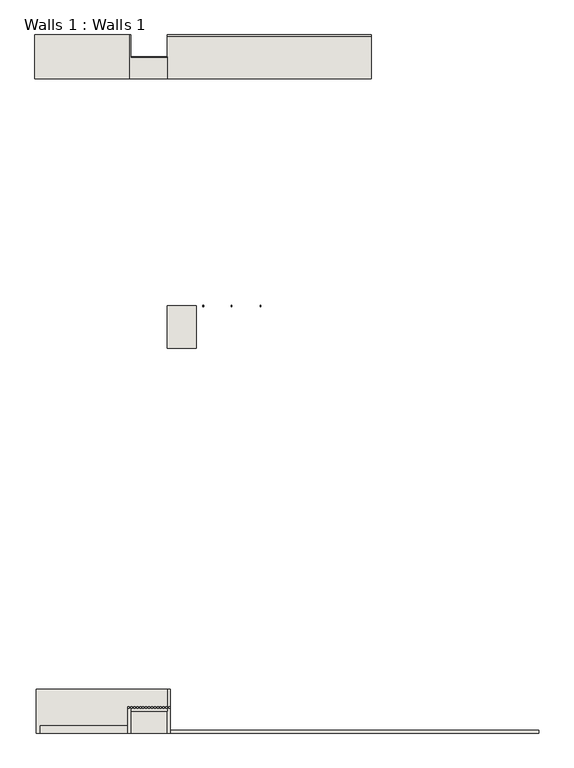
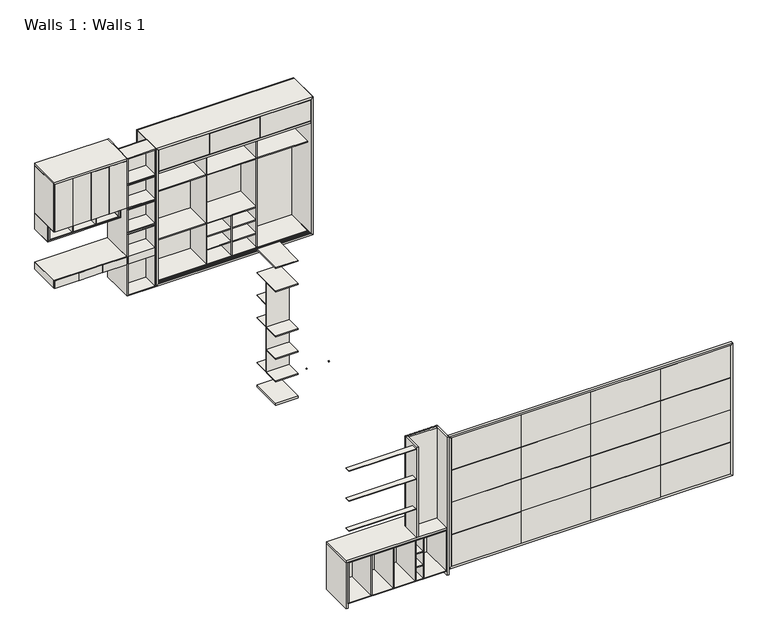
"""IFC4 building model written with IfcOpenShell, lengths in millimetres: wall geometry, Walls 1 : Walls 1."""

from ifc_helpers import new_model, si_unit, point, frame, frame_2d, origin, origin_with_axes, place, context, project, spatial, polyline, circle_curve, trimmed, segment, composite_curve, outline, extrude, faceted_brep, source, transform, mapped, element, save


def walls_1_walls_1_9100b498(model_context):
    return source(origin(), model_context, "Body", "SolidModel", [
        extrude(outline(polyline([(-4372.57126, -3535.4231126), (-4372.57126, -3435.4231126), (-3182.57126, -3435.4231126), (-3182.57126, -3535.4231126), (-4372.57126, -3535.4231126)])), frame((0.0, 0.0, 1436.6666667), z_axis=(0.0, 0.0, 1.0), x_axis=(1.0, 0.0, 0.0)), (0.0, 0.0, 1.0), 10.0),
        extrude(outline(polyline([(-4372.57126, -3535.4231126), (-4372.57126, -3435.4231126), (-3182.57126, -3435.4231126), (-3182.57126, -3535.4231126), (-4372.57126, -3535.4231126)])), frame((0.0, 0.0, 2003.3333333), z_axis=(0.0, 0.0, 1.0), x_axis=(1.0, 0.0, 0.0)), (0.0, 0.0, 1.0), 10.0),
        extrude(outline(polyline([(-4372.57126, -3535.4231126), (-4372.57126, -3435.4231126), (-3182.57126, -3435.4231126), (-3182.57126, -3535.4231126), (-4372.57126, -3535.4231126)])), frame((0.0, 0.0, 2569.2928932), z_axis=(0.0, 0.0, 1.0), x_axis=(1.0, 0.0, 0.0)), (0.0, 0.0, 1.0), 10.0),
        faceted_brep([(-2633.2783668, 5444.5768874, 2600.0), (-3147.8641532, 5444.5768874, 2600.0), (-3131.8641532, 5444.5768874, 2584.0), (-2649.2783668, 5444.5768874, 2584.0), (-3132.57126, 5444.5768874, 2583.2928932), (-3148.57126, 5444.5768874, 2599.2928932), (-3148.57126, 5444.5768874, 0.7071068), (-3132.57126, 5444.5768874, 16.7071068), (-2633.2783668, 5444.5768874, 0.0), (-2649.2783668, 5444.5768874, 16.0), (-3131.8641532, 5444.5768874, 16.0), (-3147.8641532, 5444.5768874, 0.0), (-2633.2783668, 5728.5768874, 2600.0), (-2649.2783668, 5728.5768874, 2584.0), (-3131.8641532, 5728.5768874, 2584.0), (-3132.57126, 5728.5768874, 2584.7071068), (-3132.57126, 5728.5768874, 2600.0), (-3131.8641532, 5728.5768874, 16.0), (-2649.2783668, 5728.5768874, 16.0), (-2633.2783668, 5728.5768874, 0.0), (-3132.57126, 5728.5768874, 0.0), (-3132.57126, 5728.5768874, 15.2928932), (-3147.8641532, 5728.5768874, 2600.0), (-3132.57126, 5728.5768874, 2583.2928932), (-3148.57126, 5728.5768874, 2599.2928932), (-3148.57126, 5728.5768874, 0.7071068), (-3132.57126, 5728.5768874, 16.7071068), (-3147.8641532, 5728.5768874, 0.0), (-3132.57126, 6044.5768874, 0.0), (-3132.57126, 6044.5768874, 2600.0), (-3148.57126, 5728.5768874, 2600.0), (-3148.57126, 6044.5768874, 2600.0), (-3148.57126, 6044.5768874, 0.0), (-3148.57126, 5728.5768874, 0.0)], [[[0, 1, 2, 3]], [[4, 5, 6, 7]], [[8, 9, 10, 11]], [[12, 13, 14, 15, 16]], [[17, 18, 19, 20, 21]], [[2, 1, 22, 15, 14]], [[3, 2, 14, 13]], [[0, 3, 13, 12]], [[5, 4, 23, 24]], [[7, 6, 25, 26]], [[9, 8, 19, 18]], [[10, 9, 18, 17]], [[11, 10, 17, 21, 27]], [[20, 28, 29, 16, 15, 23, 4, 7, 26, 21]], [[30, 31, 32, 33, 25, 6, 5, 24]], [[23, 15, 22, 30, 24]], [[21, 26, 25, 33, 27]], [[16, 29, 31, 30, 22, 1, 0, 12]], [[29, 28, 32, 31]], [[28, 20, 19, 8, 11, 27, 33, 32]]]),
        faceted_brep([(-2632.57126, 5444.5768874, 2599.2928932), (-2648.57126, 5444.5768874, 2583.2928932), (-2648.57126, 5444.5768874, 16.7071068), (-2632.57126, 5444.5768874, 0.7071068), (-2632.57126, 5728.5768874, 2599.2928932), (-2632.57126, 5728.5768874, 0.7071068), (-2648.57126, 5728.5768874, 16.7071068), (-2648.57126, 5728.5768874, 2583.2928932)], [[[0, 1, 2, 3]], [[4, 5, 6, 7]], [[1, 0, 4, 7]], [[2, 1, 7, 6]], [[3, 2, 6, 5]], [[0, 3, 5, 4]]]),
        extrude(outline(polyline([(-2612.57126, -3175.4231126), (-2592.57126, -3175.4231126), (-2592.57126, -3194.4231126), (-2612.57126, -3194.4231126), (-2612.57126, -3175.4231126)])), frame((0.0, 0.0, 901.0), z_axis=(0.0, 0.0, 1.0), x_axis=(1.0, 0.0, 0.0)), (0.0, 0.0, 1.0), 1699.0),
        extrude(outline(polyline([(-2652.57126, -3175.4231126), (-2632.57126, -3175.4231126), (-2632.57126, -3194.4231126), (-2652.57126, -3194.4231126), (-2652.57126, -3175.4231126)])), frame((0.0, 0.0, 901.0), z_axis=(0.0, 0.0, 1.0), x_axis=(1.0, 0.0, 0.0)), (0.0, 0.0, 1.0), 1699.0),
        extrude(outline(polyline([(-2692.57126, -3175.4231126), (-2672.57126, -3175.4231126), (-2672.57126, -3194.4231126), (-2692.57126, -3194.4231126), (-2692.57126, -3175.4231126)])), frame((0.0, 0.0, 901.0), z_axis=(0.0, 0.0, 1.0), x_axis=(1.0, 0.0, 0.0)), (0.0, 0.0, 1.0), 1699.0),
        extrude(outline(polyline([(-2732.57126, -3175.4231126), (-2712.57126, -3175.4231126), (-2712.57126, -3194.4231126), (-2732.57126, -3194.4231126), (-2732.57126, -3175.4231126)])), frame((0.0, 0.0, 901.0), z_axis=(0.0, 0.0, 1.0), x_axis=(1.0, 0.0, 0.0)), (0.0, 0.0, 1.0), 1699.0),
        extrude(outline(polyline([(-2772.57126, -3175.4231126), (-2752.57126, -3175.4231126), (-2752.57126, -3194.4231126), (-2772.57126, -3194.4231126), (-2772.57126, -3175.4231126)])), frame((0.0, 0.0, 901.0), z_axis=(0.0, 0.0, 1.0), x_axis=(1.0, 0.0, 0.0)), (0.0, 0.0, 1.0), 1699.0),
        extrude(outline(polyline([(-2812.57126, -3175.4231126), (-2792.57126, -3175.4231126), (-2792.57126, -3194.4231126), (-2812.57126, -3194.4231126), (-2812.57126, -3175.4231126)])), frame((0.0, 0.0, 901.0), z_axis=(0.0, 0.0, 1.0), x_axis=(1.0, 0.0, 0.0)), (0.0, 0.0, 1.0), 1699.0),
        extrude(outline(polyline([(-2852.57126, -3175.4231126), (-2832.57126, -3175.4231126), (-2832.57126, -3194.4231126), (-2852.57126, -3194.4231126), (-2852.57126, -3175.4231126)])), frame((0.0, 0.0, 901.0), z_axis=(0.0, 0.0, 1.0), x_axis=(1.0, 0.0, 0.0)), (0.0, 0.0, 1.0), 1699.0),
        extrude(outline(polyline([(-2892.57126, -3175.4231126), (-2872.57126, -3175.4231126), (-2872.57126, -3194.4231126), (-2892.57126, -3194.4231126), (-2892.57126, -3175.4231126)])), frame((0.0, 0.0, 901.0), z_axis=(0.0, 0.0, 1.0), x_axis=(1.0, 0.0, 0.0)), (0.0, 0.0, 1.0), 1699.0),
        extrude(outline(polyline([(-2932.57126, -3175.4231126), (-2912.57126, -3175.4231126), (-2912.57126, -3194.4231126), (-2932.57126, -3194.4231126), (-2932.57126, -3175.4231126)])), frame((0.0, 0.0, 901.0), z_axis=(0.0, 0.0, 1.0), x_axis=(1.0, 0.0, 0.0)), (0.0, 0.0, 1.0), 1699.0),
        extrude(outline(polyline([(-2972.57126, -3175.4231126), (-2952.57126, -3175.4231126), (-2952.57126, -3194.4231126), (-2972.57126, -3194.4231126), (-2972.57126, -3175.4231126)])), frame((0.0, 0.0, 901.0), z_axis=(0.0, 0.0, 1.0), x_axis=(1.0, 0.0, 0.0)), (0.0, 0.0, 1.0), 1699.0),
        extrude(outline(polyline([(-3012.57126, -3175.4231126), (-2992.57126, -3175.4231126), (-2992.57126, -3194.4231126), (-3012.57126, -3194.4231126), (-3012.57126, -3175.4231126)])), frame((0.0, 0.0, 901.0), z_axis=(0.0, 0.0, 1.0), x_axis=(1.0, 0.0, 0.0)), (0.0, 0.0, 1.0), 1699.0),
        extrude(outline(polyline([(-3052.57126, -3175.4231126), (-3032.57126, -3175.4231126), (-3032.57126, -3194.4231126), (-3052.57126, -3194.4231126), (-3052.57126, -3175.4231126)])), frame((0.0, 0.0, 901.0), z_axis=(0.0, 0.0, 1.0), x_axis=(1.0, 0.0, 0.0)), (0.0, 0.0, 1.0), 1699.0),
        extrude(outline(polyline([(-3092.57126, -3175.4231126), (-3072.57126, -3175.4231126), (-3072.57126, -3194.4231126), (-3092.57126, -3194.4231126), (-3092.57126, -3175.4231126)])), frame((0.0, 0.0, 901.0), z_axis=(0.0, 0.0, 1.0), x_axis=(1.0, 0.0, 0.0)), (0.0, 0.0, 1.0), 1699.0),
        extrude(outline(polyline([(-3132.57126, -3175.4231126), (-3112.57126, -3175.4231126), (-3112.57126, -3194.4231126), (-3132.57126, -3194.4231126), (-3132.57126, -3175.4231126)])), frame((0.0, 0.0, 901.0), z_axis=(0.0, 0.0, 1.0), x_axis=(1.0, 0.0, 0.0)), (0.0, 0.0, 1.0), 1699.0),
        extrude(outline(polyline([(-3172.57126, -3175.4231126), (-3152.57126, -3175.4231126), (-3152.57126, -3194.4231126), (-3172.57126, -3194.4231126), (-3172.57126, -3175.4231126)])), frame((0.0, 0.0, 901.0), z_axis=(0.0, 0.0, 1.0), x_axis=(1.0, 0.0, 0.0)), (0.0, 0.0, 1.0), 1699.0),
        extrude(outline(polyline([(-4391.57126, -2985.4231126), (-2633.57126, -2985.4231126), (-2633.57126, -3001.4231126), (-4391.57126, -3001.4231126), (-4391.57126, -2985.4231126)])), origin_with_axes(), (0.0, 0.0, 1.0), 79.0),
        extrude(outline(polyline([(-3182.57126, -2955.4231126), (-3059.57126, -2955.4231126), (-3059.57126, -3535.4231126), (-3182.57126, -3535.4231126), (-3182.57126, -2955.4231126)])), frame((0.0, 0.0, 588.6666667), z_axis=(0.0, 0.0, 1.0), x_axis=(1.0, 0.0, 0.0)), (0.0, 0.0, 1.0), 16.0),
        extrude(outline(polyline([(-3182.57126, -2955.4231126), (-3059.57126, -2955.4231126), (-3059.57126, -3535.4231126), (-3182.57126, -3535.4231126), (-3182.57126, -2955.4231126)])), frame((0.0, 0.0, 334.3333333), z_axis=(0.0, 0.0, 1.0), x_axis=(1.0, 0.0, 0.0)), (0.0, 0.0, 1.0), 16.0),
        extrude(outline(polyline([(-2935.4231126, 80.0), (-2951.4231126, 80.0), (-2951.4231126, 851.7978099), (-2944.2209225, 859.0), (-2935.4231126, 859.0), (-2935.4231126, 80.0)])), frame((-3047.07126, 0.0, 0.0), z_axis=(1.0, 0.0, 0.0), x_axis=(0.0, 1.0, 0.0)), (0.0, 0.0, 1.0), 409.5),
        extrude(outline(polyline([(-2935.4231126, 80.0), (-2951.4231126, 80.0), (-2951.4231126, 851.7978099), (-2944.2209225, 859.0), (-2935.4231126, 859.0), (-2935.4231126, 80.0)])), frame((-3581.07126, 0.0, 0.0), z_axis=(1.0, 0.0, 0.0), x_axis=(0.0, 1.0, 0.0)), (0.0, 0.0, 1.0), 387.0),
        extrude(outline(polyline([(-2935.4231126, 80.0), (-2951.4231126, 80.0), (-2951.4231126, 851.7978099), (-2944.2209225, 859.0), (-2935.4231126, 859.0), (-2935.4231126, 80.0)])), frame((-3973.07126, 0.0, 0.0), z_axis=(1.0, 0.0, 0.0), x_axis=(0.0, 1.0, 0.0)), (0.0, 0.0, 1.0), 387.0),
        extrude(outline(polyline([(-2935.4231126, 80.0), (-2951.4231126, 80.0), (-2951.4231126, 851.7978099), (-2944.2209225, 859.0), (-2935.4231126, 859.0), (-2935.4231126, 80.0)])), frame((-4387.57126, 0.0, 0.0), z_axis=(1.0, 0.0, 0.0), x_axis=(0.0, 1.0, 0.0)), (0.0, 0.0, 1.0), 409.5),
        extrude(outline(polyline([(859.0, -2634.2783668), (859.0, -4390.8641532), (843.0, -4374.8641532), (843.0, -2650.2783668), (859.0, -2634.2783668)])), frame((0.0, -3535.4231126, 0.0), z_axis=(0.0, 1.0, 0.0), x_axis=(0.0, 0.0, 1.0)), (0.0, 0.0, 1.0), 580.0),
        extrude(outline(polyline([(858.2928932, -4391.57126), (80.7071068, -4391.57126), (96.7071068, -4375.57126), (842.2928932, -4375.57126), (858.2928932, -4391.57126)])), frame((0.0, -3535.4231126, 0.0), z_axis=(0.0, 1.0, 0.0), x_axis=(0.0, 0.0, 1.0)), (0.0, 0.0, 1.0), 580.0),
        extrude(outline(polyline([(80.0, -4390.8641532), (80.0, -2634.2783668), (96.0, -2650.2783668), (96.0, -4374.8641532), (80.0, -4390.8641532)])), frame((0.0, -3535.4231126, 0.0), z_axis=(0.0, 1.0, 0.0), x_axis=(0.0, 0.0, 1.0)), (0.0, 0.0, 1.0), 580.0),
        extrude(outline(polyline([(80.7071068, -2633.57126), (858.2928932, -2633.57126), (842.2928932, -2649.57126), (96.7071068, -2649.57126), (80.7071068, -2633.57126)])), frame((0.0, -3535.4231126, 0.0), z_axis=(0.0, 1.0, 0.0), x_axis=(0.0, 0.0, 1.0)), (0.0, 0.0, 1.0), 580.0),
        extrude(outline(polyline([(-3057.57126, -2955.4231126), (-3041.57126, -2955.4231126), (-3041.57126, -3535.4231126), (-3057.57126, -3535.4231126), (-3057.57126, -2955.4231126)])), frame((0.0, 0.0, 97.0), z_axis=(0.0, 0.0, 1.0), x_axis=(1.0, 0.0, 0.0)), (0.0, 0.0, 1.0), 745.0),
        extrude(outline(polyline([(-3983.57126, -2955.4231126), (-3967.57126, -2955.4231126), (-3967.57126, -3535.4231126), (-3983.57126, -3535.4231126), (-3983.57126, -2955.4231126)])), frame((0.0, 0.0, 97.0), z_axis=(0.0, 0.0, 1.0), x_axis=(1.0, 0.0, 0.0)), (0.0, 0.0, 1.0), 745.0),
        extrude(outline(polyline([(-3591.57126, -2955.4231126), (-3575.57126, -2955.4231126), (-3575.57126, -3535.4231126), (-3591.57126, -3535.4231126), (-3591.57126, -2955.4231126)])), frame((0.0, 0.0, 97.0), z_axis=(0.0, 0.0, 1.0), x_axis=(1.0, 0.0, 0.0)), (0.0, 0.0, 1.0), 745.0),
        extrude(outline(polyline([(-3199.57126, -2955.4231126), (-3183.57126, -2955.4231126), (-3183.57126, -3535.4231126), (-3199.57126, -3535.4231126), (-3199.57126, -2955.4231126)])), frame((0.0, 0.0, 97.0), z_axis=(0.0, 0.0, 1.0), x_axis=(1.0, 0.0, 0.0)), (0.0, 0.0, 1.0), 745.0),
        extrude(outline(polyline([(-4432.57126, -2935.4231126), (-4392.57126, -2935.4231126), (-4392.57126, -3535.4231126), (-4432.57126, -3535.4231126), (-4432.57126, -2935.4231126)])), origin_with_axes(), (0.0, 0.0, 1.0), 859.0),
        extrude(outline(polyline([(-2935.4231126, 900.0), (-2935.4231126, 880.0), (-2955.4231126, 860.0), (-3535.4231126, 860.0), (-3535.4231126, 900.0), (-2935.4231126, 900.0)])), frame((-4432.57126, 0.0, 0.0), z_axis=(1.0, 0.0, 0.0), x_axis=(0.0, 1.0, 0.0)), (0.0, 0.0, 1.0), 1799.0),
        extrude(outline(polyline([(-3172.57126, -3195.4231126), (-3132.57126, -3195.4231126), (-3132.57126, -3535.4231126), (-3172.57126, -3535.4231126), (-3172.57126, -3195.4231126)])), frame((0.0, 0.0, 900.0), z_axis=(0.0, 0.0, 1.0), x_axis=(1.0, 0.0, 0.0)), (0.0, 0.0, 1.0), 1700.0),
        extrude(outline(polyline([(-3131.57126, -3195.4231126), (-2633.57126, -3195.4231126), (-2633.57126, -3235.4231126), (-3131.57126, -3235.4231126), (-3131.57126, -3195.4231126)])), frame((0.0, 0.0, 900.9642977), z_axis=(0.0, 0.0, 1.0), x_axis=(1.0, 0.0, 0.0)), (0.0, 0.0, 1.0), 1699.0357023),
        extrude(outline(polyline([(-3535.4231126, 0.0), (-3535.4231126, 2600.0), (-3195.4231126, 2600.0), (-3195.4231126, 900.0), (-2935.4231126, 900.0), (-2935.4231126, 0.0), (-3535.4231126, 0.0)])), frame((-2632.57126, 0.0, 0.0), z_axis=(1.0, 0.0, 0.0), x_axis=(0.0, 1.0, 0.0)), (0.0, 0.0, 1.0), 40.0),
        extrude(outline(polyline([(-2552.57126, -3515.4231126), (-1312.57126, -3515.4231126), (-1312.57126, -3535.4231126), (-2552.57126, -3535.4231126), (-2552.57126, -3515.4231126)])), frame((0.0, 0.0, 139.2928932), z_axis=(0.0, 0.0, 1.0), x_axis=(1.0, 0.0, 0.0)), (0.0, 0.0, 1.0), 600.0),
        extrude(outline(polyline([(-2552.57126, -3515.4231126), (-1312.57126, -3515.4231126), (-1312.57126, -3535.4231126), (-2552.57126, -3535.4231126), (-2552.57126, -3515.4231126)])), frame((0.0, 0.0, 746.8), z_axis=(0.0, 0.0, 1.0), x_axis=(1.0, 0.0, 0.0)), (0.0, 0.0, 1.0), 600.0),
        extrude(outline(polyline([(-2552.57126, -3515.4231126), (-1312.57126, -3515.4231126), (-1312.57126, -3535.4231126), (-2552.57126, -3535.4231126), (-2552.57126, -3515.4231126)])), frame((0.0, 0.0, 1353.4), z_axis=(0.0, 0.0, 1.0), x_axis=(1.0, 0.0, 0.0)), (0.0, 0.0, 1.0), 600.0),
        extrude(outline(polyline([(-2552.57126, -3515.4231126), (-1312.57126, -3515.4231126), (-1312.57126, -3535.4231126), (-2552.57126, -3535.4231126), (-2552.57126, -3515.4231126)])), frame((0.0, 0.0, 1960.0), z_axis=(0.0, 0.0, 1.0), x_axis=(1.0, 0.0, 0.0)), (0.0, 0.0, 1.0), 600.0),
        extrude(outline(polyline([(-1305.77126, -3515.4231126), (-65.77126, -3515.4231126), (-65.77126, -3535.4231126), (-1305.77126, -3535.4231126), (-1305.77126, -3515.4231126)])), frame((0.0, 0.0, 139.2928932), z_axis=(0.0, 0.0, 1.0), x_axis=(1.0, 0.0, 0.0)), (0.0, 0.0, 1.0), 600.0),
        extrude(outline(polyline([(-1305.77126, -3515.4231126), (-65.77126, -3515.4231126), (-65.77126, -3535.4231126), (-1305.77126, -3535.4231126), (-1305.77126, -3515.4231126)])), frame((0.0, 0.0, 746.8), z_axis=(0.0, 0.0, 1.0), x_axis=(1.0, 0.0, 0.0)), (0.0, 0.0, 1.0), 600.0),
        extrude(outline(polyline([(-1305.77126, -3515.4231126), (-65.77126, -3515.4231126), (-65.77126, -3535.4231126), (-1305.77126, -3535.4231126), (-1305.77126, -3515.4231126)])), frame((0.0, 0.0, 1353.4), z_axis=(0.0, 0.0, 1.0), x_axis=(1.0, 0.0, 0.0)), (0.0, 0.0, 1.0), 600.0),
        extrude(outline(polyline([(-1305.77126, -3515.4231126), (-65.77126, -3515.4231126), (-65.77126, -3535.4231126), (-1305.77126, -3535.4231126), (-1305.77126, -3515.4231126)])), frame((0.0, 0.0, 1960.0), z_axis=(0.0, 0.0, 1.0), x_axis=(1.0, 0.0, 0.0)), (0.0, 0.0, 1.0), 600.0),
        extrude(outline(polyline([(-59.17126, -3515.4231126), (1180.82874, -3515.4231126), (1180.82874, -3535.4231126), (-59.17126, -3535.4231126), (-59.17126, -3515.4231126)])), frame((0.0, 0.0, 139.2928932), z_axis=(0.0, 0.0, 1.0), x_axis=(1.0, 0.0, 0.0)), (0.0, 0.0, 1.0), 600.0),
        extrude(outline(polyline([(-59.17126, -3515.4231126), (1180.82874, -3515.4231126), (1180.82874, -3535.4231126), (-59.17126, -3535.4231126), (-59.17126, -3515.4231126)])), frame((0.0, 0.0, 746.8), z_axis=(0.0, 0.0, 1.0), x_axis=(1.0, 0.0, 0.0)), (0.0, 0.0, 1.0), 600.0),
        extrude(outline(polyline([(-59.17126, -3515.4231126), (1180.82874, -3515.4231126), (1180.82874, -3535.4231126), (-59.17126, -3535.4231126), (-59.17126, -3515.4231126)])), frame((0.0, 0.0, 1353.4), z_axis=(0.0, 0.0, 1.0), x_axis=(1.0, 0.0, 0.0)), (0.0, 0.0, 1.0), 600.0),
        extrude(outline(polyline([(-59.17126, -3515.4231126), (1180.82874, -3515.4231126), (1180.82874, -3535.4231126), (-59.17126, -3535.4231126), (-59.17126, -3515.4231126)])), frame((0.0, 0.0, 1960.0), z_axis=(0.0, 0.0, 1.0), x_axis=(1.0, 0.0, 0.0)), (0.0, 0.0, 1.0), 600.0),
        extrude(outline(polyline([(1187.42874, -3515.4231126), (2427.42874, -3515.4231126), (2427.42874, -3535.4231126), (1187.42874, -3535.4231126), (1187.42874, -3515.4231126)])), frame((0.0, 0.0, 139.2928932), z_axis=(0.0, 0.0, 1.0), x_axis=(1.0, 0.0, 0.0)), (0.0, 0.0, 1.0), 600.0),
        extrude(outline(polyline([(1187.42874, -3515.4231126), (2427.42874, -3515.4231126), (2427.42874, -3535.4231126), (1187.42874, -3535.4231126), (1187.42874, -3515.4231126)])), frame((0.0, 0.0, 746.8), z_axis=(0.0, 0.0, 1.0), x_axis=(1.0, 0.0, 0.0)), (0.0, 0.0, 1.0), 600.0),
        extrude(outline(polyline([(1187.42874, -3515.4231126), (2427.42874, -3515.4231126), (2427.42874, -3535.4231126), (1187.42874, -3535.4231126), (1187.42874, -3515.4231126)])), frame((0.0, 0.0, 1353.4), z_axis=(0.0, 0.0, 1.0), x_axis=(1.0, 0.0, 0.0)), (0.0, 0.0, 1.0), 600.0),
        extrude(outline(polyline([(1187.42874, -3515.4231126), (2427.42874, -3515.4231126), (2427.42874, -3535.4231126), (1187.42874, -3535.4231126), (1187.42874, -3515.4231126)])), frame((0.0, 0.0, 1960.0), z_axis=(0.0, 0.0, 1.0), x_axis=(1.0, 0.0, 0.0)), (0.0, 0.0, 1.0), 600.0),
        extrude(outline(polyline([(2599.2928932, 2467.42874), (2559.2928932, 2427.42874), (140.0, 2427.42874), (100.0, 2467.42874), (2599.2928932, 2467.42874)])), frame((0.0, -3535.4231126, 0.0), z_axis=(0.0, 1.0, 0.0), x_axis=(0.0, 0.0, 1.0)), (0.0, 0.0, 1.0), 40.0),
        extrude(outline(polyline([(2560.0, 2426.7216332), (2600.0, 2466.7216332), (2600.0, -2591.8641532), (2560.0, -2551.8641532), (2560.0, 2426.7216332)])), frame((0.0, -3535.4231126, 0.0), z_axis=(0.0, 1.0, 0.0), x_axis=(0.0, 0.0, 1.0)), (0.0, 0.0, 1.0), 40.0),
        extrude(outline(polyline([(139.2928932, 2426.7216332), (139.2928932, -2551.8641532), (99.2928932, -2591.8641532), (99.2928932, 2466.7216332), (139.2928932, 2426.7216332)])), frame((0.0, -3535.4231126, 0.0), z_axis=(0.0, 1.0, 0.0), x_axis=(0.0, 0.0, 1.0)), (0.0, 0.0, 1.0), 40.0),
        extrude(outline(polyline([(2599.2928932, -2592.57126), (100.0, -2592.57126), (140.0, -2552.57126), (2559.2928932, -2552.57126), (2599.2928932, -2592.57126)])), frame((0.0, -3535.4231126, 0.0), z_axis=(0.0, 1.0, 0.0), x_axis=(0.0, 0.0, 1.0)), (0.0, 0.0, 1.0), 40.0),
        extrude(outline(polyline([(5728.5768874, 2103.0), (5628.5768874, 2103.0), (5628.5768874, 2083.0), (5444.5768874, 2083.0), (5444.5768874, 2093.0), (5469.5768874, 2093.0), (5469.5768874, 2113.0), (5444.5768874, 2113.0), (5444.5768874, 2123.0), (5728.5768874, 2123.0), (5728.5768874, 2103.0)])), frame((-3131.57126, 0.0, 0.0), z_axis=(1.0, 0.0, 0.0), x_axis=(0.0, 1.0, 0.0)), (0.0, 0.0, 1.0), 482.0),
        extrude(outline(polyline([(5728.5768874, 1642.0), (5628.5768874, 1642.0), (5628.5768874, 1622.0), (5444.5768874, 1622.0), (5444.5768874, 1632.0), (5469.5768874, 1632.0), (5469.5768874, 1652.0), (5444.5768874, 1652.0), (5444.5768874, 1662.0), (5728.5768874, 1662.0), (5728.5768874, 1642.0)])), frame((-3131.57126, 0.0, 0.0), z_axis=(1.0, 0.0, 0.0), x_axis=(0.0, 1.0, 0.0)), (0.0, 0.0, 1.0), 482.0),
        extrude(outline(polyline([(5728.5768874, 1181.0), (5628.5768874, 1181.0), (5628.5768874, 1161.0), (5444.5768874, 1161.0), (5444.5768874, 1171.0), (5469.5768874, 1171.0), (5469.5768874, 1191.0), (5444.5768874, 1191.0), (5444.5768874, 1201.0), (5728.5768874, 1201.0), (5728.5768874, 1181.0)])), frame((-3131.57126, 0.0, 0.0), z_axis=(1.0, 0.0, 0.0), x_axis=(0.0, 1.0, 0.0)), (0.0, 0.0, 1.0), 482.0),
        extrude(outline(polyline([(-3153.57126, 5444.5768874), (-3471.07126, 5444.5768874), (-3471.07126, 5460.5768874), (-3153.57126, 5460.5768874), (-3153.57126, 5444.5768874)])), frame((0.0, 0.0, 1665.291328), z_axis=(0.0, 0.0, 1.0), x_axis=(1.0, 0.0, 0.0)), (0.0, 0.0, 1.0), 889.708672),
        extrude(outline(polyline([(-4121.07126, 5444.5768874), (-4443.57126, 5444.5768874), (-4443.57126, 5460.5768874), (-4121.07126, 5460.5768874), (-4121.07126, 5444.5768874)])), frame((0.0, 0.0, 1665.291328), z_axis=(0.0, 0.0, 1.0), x_axis=(1.0, 0.0, 0.0)), (0.0, 0.0, 1.0), 889.708672),
        extrude(outline(polyline([(-3476.07126, 5444.5768874), (-3793.57126, 5444.5768874), (-3793.57126, 5460.5768874), (-3476.07126, 5460.5768874), (-3476.07126, 5444.5768874)])), frame((0.0, 0.0, 1665.291328), z_axis=(0.0, 0.0, 1.0), x_axis=(1.0, 0.0, 0.0)), (0.0, 0.0, 1.0), 889.708672),
        extrude(outline(polyline([(-3798.57126, 5444.5768874), (-4116.07126, 5444.5768874), (-4116.07126, 5460.5768874), (-3798.57126, 5460.5768874), (-3798.57126, 5444.5768874)])), frame((0.0, 0.0, 1665.291328), z_axis=(0.0, 0.0, 1.0), x_axis=(1.0, 0.0, 0.0)), (0.0, 0.0, 1.0), 889.708672),
        extrude(outline(polyline([(1627.191328, -3182.3783668), (1643.191328, -3166.3783668), (1643.191328, -4430.7641532), (1627.191328, -4414.7641532), (1627.191328, -3182.3783668)])), frame((0.0, 5644.5768874, 0.0), z_axis=(0.0, 1.0, 0.0), x_axis=(0.0, 0.0, 1.0)), (0.0, 0.0, 1.0), 400.0),
        extrude(outline(polyline([(1392.0984348, -3181.67126), (1376.0984348, -3165.67126), (1642.4842213, -3165.67126), (1626.4842213, -3181.67126), (1392.0984348, -3181.67126)])), frame((0.0, 5644.5768874, 0.0), z_axis=(0.0, 1.0, 0.0), x_axis=(0.0, 0.0, 1.0)), (0.0, 0.0, 1.0), 400.0),
        extrude(outline(polyline([(1392.0984348, -4415.47126), (1626.4842213, -4415.47126), (1642.4842213, -4431.47126), (1376.0984348, -4431.47126), (1392.0984348, -4415.47126)])), frame((0.0, 5644.5768874, 0.0), z_axis=(0.0, 1.0, 0.0), x_axis=(0.0, 0.0, 1.0)), (0.0, 0.0, 1.0), 400.0),
        extrude(outline(polyline([(1391.391328, -3182.3783668), (1391.391328, -4414.7641532), (1375.391328, -4430.7641532), (1375.391328, -3166.3783668), (1391.391328, -3182.3783668)])), frame((0.0, 5644.5768874, 0.0), z_axis=(0.0, 1.0, 0.0), x_axis=(0.0, 0.0, 1.0)), (0.0, 0.0, 1.0), 400.0),
        extrude(outline(polyline([(-3998.8379267, 5644.5768874), (-4014.8379267, 5644.5768874), (-4014.8379267, 6044.5768874), (-3998.8379267, 6044.5768874), (-3998.8379267, 5644.5768874)])), frame((0.0, 0.0, 1392.391328), z_axis=(0.0, 0.0, 1.0), x_axis=(1.0, 0.0, 0.0)), (0.0, 0.0, 1.0), 233.8),
        extrude(outline(polyline([(-3582.2045933, 5644.5768874), (-3598.2045933, 5644.5768874), (-3598.2045933, 6044.5768874), (-3582.2045933, 6044.5768874), (-3582.2045933, 5644.5768874)])), frame((0.0, 0.0, 1392.391328), z_axis=(0.0, 0.0, 1.0), x_axis=(1.0, 0.0, 0.0)), (0.0, 0.0, 1.0), 233.8),
        extrude(outline(polyline([(1658.5842213, -3149.57126), (1642.5842213, -3165.57126), (1375.9984348, -3165.57126), (1359.9984348, -3149.57126), (1658.5842213, -3149.57126)])), frame((0.0, 5644.5768874, 0.0), z_axis=(0.0, 1.0, 0.0), x_axis=(0.0, 0.0, 1.0)), (0.0, 0.0, 1.0), 400.0),
        extrude(outline(polyline([(1659.291328, -4446.8641532), (1643.291328, -4430.8641532), (1643.291328, -3166.2783668), (1659.291328, -3150.2783668), (1659.291328, -4446.8641532)])), frame((0.0, 5644.5768874, 0.0), z_axis=(0.0, 1.0, 0.0), x_axis=(0.0, 0.0, 1.0)), (0.0, 0.0, 1.0), 400.0),
        extrude(outline(polyline([(1658.5842213, -4447.57126), (1359.9984348, -4447.57126), (1375.9984348, -4431.57126), (1642.5842213, -4431.57126), (1658.5842213, -4447.57126)])), frame((0.0, 5644.5768874, 0.0), z_axis=(0.0, 1.0, 0.0), x_axis=(0.0, 0.0, 1.0)), (0.0, 0.0, 1.0), 400.0),
        extrude(outline(polyline([(1359.291328, -4446.8641532), (1359.291328, -3150.2783668), (1375.291328, -3166.2783668), (1375.291328, -4430.8641532), (1359.291328, -4446.8641532)])), frame((0.0, 5644.5768874, 0.0), z_axis=(0.0, 1.0, 0.0), x_axis=(0.0, 0.0, 1.0)), (0.0, 0.0, 1.0), 400.0),
        extrude(outline(polyline([(2542.2928932, -4432.57126), (2558.2928932, -4448.57126), (1660.9984348, -4448.57126), (1676.9984348, -4432.57126), (2542.2928932, -4432.57126)])), frame((0.0, 5460.5768874, 0.0), z_axis=(0.0, 1.0, 0.0), x_axis=(0.0, 0.0, 1.0)), (0.0, 0.0, 1.0), 584.0),
        extrude(outline(polyline([(2558.2928932, -3148.57126), (2542.2928932, -3164.57126), (1676.9984348, -3164.57126), (1660.9984348, -3148.57126), (2558.2928932, -3148.57126)])), frame((0.0, 5460.5768874, 0.0), z_axis=(0.0, 1.0, 0.0), x_axis=(0.0, 0.0, 1.0)), (0.0, 0.0, 1.0), 584.0),
        extrude(outline(polyline([(1676.291328, -4431.8641532), (1660.291328, -4447.8641532), (1660.291328, -3149.2783668), (1676.291328, -3165.2783668), (1676.291328, -4431.8641532)])), frame((0.0, 5460.5768874, 0.0), z_axis=(0.0, 1.0, 0.0), x_axis=(0.0, 0.0, 1.0)), (0.0, 0.0, 1.0), 584.0),
        extrude(outline(polyline([(2559.0, -3149.2783668), (2559.0, -4447.8641532), (2543.0, -4431.8641532), (2543.0, -3165.2783668), (2559.0, -3149.2783668)])), frame((0.0, 5460.5768874, 0.0), z_axis=(0.0, 1.0, 0.0), x_axis=(0.0, 0.0, 1.0)), (0.0, 0.0, 1.0), 584.0),
        extrude(outline(polyline([(-3148.57126, 5444.5768874), (-4447.57126, 5444.5768874), (-4447.57126, 6044.5768874), (-3148.57126, 6044.5768874), (-3148.57126, 5444.5768874)])), frame((0.0, 0.0, 2560.0), z_axis=(0.0, 0.0, 1.0), x_axis=(1.0, 0.0, 0.0)), (0.0, 0.0, 1.0), 40.0),
        extrude(outline(polyline([(-3592.7045933, 5444.5768874), (-4004.3379267, 5444.5768874), (-4004.3379267, 5460.5768874), (-3592.7045933, 5460.5768874), (-3592.7045933, 5444.5768874)])), frame((0.0, 0.0, 600.0), z_axis=(0.0, 0.0, 1.0), x_axis=(1.0, 0.0, 0.0)), (0.0, 0.0, 1.0), 140.0),
        extrude(outline(polyline([(-4009.3379267, 5444.5768874), (-4443.57126, 5444.5768874), (-4443.57126, 5460.5768874), (-4009.3379267, 5460.5768874), (-4009.3379267, 5444.5768874)])), frame((0.0, 0.0, 600.0), z_axis=(0.0, 0.0, 1.0), x_axis=(1.0, 0.0, 0.0)), (0.0, 0.0, 1.0), 140.0),
        extrude(outline(polyline([(-3151.07126, 5444.5768874), (-3587.7045933, 5444.5768874), (-3587.7045933, 5460.5768874), (-3151.07126, 5460.5768874), (-3151.07126, 5444.5768874)])), frame((0.0, 0.0, 600.0), z_axis=(0.0, 0.0, 1.0), x_axis=(1.0, 0.0, 0.0)), (0.0, 0.0, 1.0), 140.0),
        extrude(outline(polyline([(740.0, -4447.8641532), (724.0, -4431.8641532), (724.0, -3166.2783668), (740.0, -3150.2783668), (740.0, -4447.8641532)])), frame((0.0, 5460.5768874, 0.0), z_axis=(0.0, 1.0, 0.0), x_axis=(0.0, 0.0, 1.0)), (0.0, 0.0, 1.0), 584.0),
        extrude(outline(polyline([(739.2928932, -3149.57126), (723.2928932, -3165.57126), (616.7071068, -3165.57126), (600.7071068, -3149.57126), (739.2928932, -3149.57126)])), frame((0.0, 5460.5768874, 0.0), z_axis=(0.0, 1.0, 0.0), x_axis=(0.0, 0.0, 1.0)), (0.0, 0.0, 1.0), 584.0),
        extrude(outline(polyline([(600.0, -3150.2783668), (616.0, -3166.2783668), (616.0, -4431.8641532), (600.0, -4447.8641532), (600.0, -3150.2783668)])), frame((0.0, 5460.5768874, 0.0), z_axis=(0.0, 1.0, 0.0), x_axis=(0.0, 0.0, 1.0)), (0.0, 0.0, 1.0), 584.0),
        extrude(outline(polyline([(600.7071068, -4448.57126), (616.7071068, -4432.57126), (723.2928932, -4432.57126), (739.2928932, -4448.57126), (600.7071068, -4448.57126)])), frame((0.0, 5460.5768874, 0.0), z_axis=(0.0, 1.0, 0.0), x_axis=(0.0, 0.0, 1.0)), (0.0, 0.0, 1.0), 584.0),
        extrude(outline(polyline([(-3582.2045933, 5460.5768874), (-3598.2045933, 5460.5768874), (-3598.2045933, 6044.5768874), (-3582.2045933, 6044.5768874), (-3582.2045933, 5460.5768874)])), frame((0.0, 0.0, 617.0), z_axis=(0.0, 0.0, 1.0), x_axis=(1.0, 0.0, 0.0)), (0.0, 0.0, 1.0), 106.0),
        extrude(outline(polyline([(-3998.8379267, 5460.5768874), (-4014.8379267, 5460.5768874), (-4014.8379267, 6044.5768874), (-3998.8379267, 6044.5768874), (-3998.8379267, 5460.5768874)])), frame((0.0, 0.0, 617.0), z_axis=(0.0, 0.0, 1.0), x_axis=(1.0, 0.0, 0.0)), (0.0, 0.0, 1.0), 106.0),
        extrude(outline(polyline([(-2649.57126, 5444.5768874), (-3131.8641532, 5444.5768874), (-3131.8641532, 5728.5768874), (-2649.57126, 5728.5768874), (-2649.57126, 5444.5768874)])), frame((0.0, 0.0, 600.0), z_axis=(0.0, 0.0, 1.0), x_axis=(1.0, 0.0, 0.0)), (0.0, 0.0, 1.0), 140.0),
        extrude(outline(polyline([(-3131.8641532, 5744.5768874), (-2632.57126, 5744.5768874), (-2632.57126, 5728.5768874), (-3131.8641532, 5728.5768874), (-3131.8641532, 5744.5768874)])), origin_with_axes(), (0.0, 0.0, 1.0), 2600.0),
        extrude(outline(polyline([(167.42874, 6028.5768874), (-2632.57126, 6028.5768874), (-2632.57126, 6044.5768874), (167.42874, 6044.5768874), (167.42874, 6028.5768874)])), origin_with_axes(), (0.0, 0.0, 1.0), 2600.0),
        faceted_brep([(-2581.8641532, 5500.5768874, 30.0), (-2581.8641532, 5482.5768874, 30.0), (117.42874, 5482.5768874, 30.0), (117.42874, 5500.5768874, 30.0), (-2581.8641532, 5472.5768874, 30.0), (-2581.8641532, 5454.5768874, 30.0), (117.42874, 5454.5768874, 30.0), (117.42874, 5472.5768874, 30.0), (-2581.8641532, 5528.5768874, 30.0), (-2581.8641532, 5510.5768874, 30.0), (117.42874, 5510.5768874, 30.0), (117.42874, 5528.5768874, 30.0), (117.42874, 5500.5768874, 40.0), (-2581.8641532, 5500.5768874, 40.0), (117.42874, 5482.5768874, 40.0), (-2581.8641532, 5482.5768874, 40.0), (117.42874, 5472.5768874, 40.0), (-2581.8641532, 5472.5768874, 40.0), (117.42874, 5454.5768874, 40.0), (-2581.8641532, 5454.5768874, 40.0), (166.7216332, 5444.5768874, 0.0), (126.7216332, 5444.5768874, 40.0), (-2591.8641532, 5444.5768874, 40.0), (-2631.8641532, 5444.5768874, 0.0), (166.7216332, 6028.5768874, 0.0), (-2631.8641532, 6028.5768874, 0.0), (-2591.8641532, 6028.5768874, 40.0), (126.7216332, 6028.5768874, 40.0), (-2581.8641532, 5528.5768874, 40.0), (117.42874, 5528.5768874, 40.0), (117.42874, 5510.5768874, 40.0), (-2581.8641532, 5510.5768874, 40.0)], [[[0, 1, 2, 3]], [[4, 5, 6, 7]], [[8, 9, 10, 11]], [[0, 3, 12, 13]], [[3, 2, 14, 12]], [[2, 1, 15, 14]], [[1, 0, 13, 15]], [[4, 7, 16, 17]], [[7, 6, 18, 16]], [[6, 5, 19, 18]], [[5, 4, 17, 19]], [[20, 21, 22, 23]], [[24, 25, 26, 27]], [[20, 23, 25, 24]], [[23, 22, 26, 25]], [[22, 21, 27, 26], [13, 12, 14, 15], [17, 16, 18, 19], [28, 29, 30, 31]], [[21, 20, 24, 27]], [[8, 11, 29, 28]], [[11, 10, 30, 29]], [[10, 9, 31, 30]], [[9, 8, 28, 31]]]),
        faceted_brep([(-2632.57126, 5444.5768874, 0.7071068), (-2592.57126, 5444.5768874, 40.7071068), (-2592.57126, 5444.5768874, 2559.2928932), (-2632.57126, 5444.5768874, 2599.2928932), (-2632.57126, 6028.5768874, 0.7071068), (-2632.57126, 6028.5768874, 2599.2928932), (-2592.57126, 6028.5768874, 2559.2928932), (-2592.57126, 6028.5768874, 40.7071068)], [[[0, 1, 2, 3]], [[4, 5, 6, 7]], [[0, 3, 5, 4]], [[3, 2, 6, 5]], [[2, 1, 7, 6]], [[1, 0, 4, 7]]]),
        faceted_brep([(166.7216332, 5444.5768874, 2600.0), (-2631.8641532, 5444.5768874, 2600.0), (-2591.8641532, 5444.5768874, 2560.0), (126.7216332, 5444.5768874, 2560.0), (166.7216332, 6028.5768874, 2600.0), (126.7216332, 6028.5768874, 2560.0), (-2591.8641532, 6028.5768874, 2560.0), (-2631.8641532, 6028.5768874, 2600.0)], [[[0, 1, 2, 3]], [[4, 5, 6, 7]], [[0, 3, 5, 4]], [[3, 2, 6, 5]], [[2, 1, 7, 6]], [[1, 0, 4, 7]]]),
        faceted_brep([(167.42874, 5444.5768874, 0.7071068), (167.42874, 5444.5768874, 2599.2928932), (127.42874, 5444.5768874, 2559.2928932), (127.42874, 5444.5768874, 40.7071068), (167.42874, 6028.5768874, 0.7071068), (127.42874, 6028.5768874, 40.7071068), (127.42874, 6028.5768874, 2559.2928932), (167.42874, 6028.5768874, 2599.2928932)], [[[0, 1, 2, 3]], [[4, 5, 6, 7]], [[0, 3, 5, 4]], [[3, 2, 6, 5]], [[2, 1, 7, 6]], [[1, 0, 4, 7]]]),
        faceted_brep([(-2591.57126, 5444.5768874, 2160.0), (-2591.57126, 5444.5768874, 2120.0), (126.42874, 5444.5768874, 2120.0), (126.42874, 5444.5768874, 2160.0), (-2591.57126, 6028.5768874, 2160.0), (126.42874, 6028.5768874, 2160.0), (126.42874, 6028.5768874, 2120.0), (-2591.57126, 6028.5768874, 2120.0), (116.7216332, 5500.5768874, 2120.0), (-2582.57126, 5500.5768874, 2120.0), (-2582.57126, 5482.5768874, 2120.0), (116.7216332, 5482.5768874, 2120.0), (116.7216332, 5472.5768874, 2120.0), (-2582.57126, 5472.5768874, 2120.0), (-2582.57126, 5454.5768874, 2120.0), (116.7216332, 5454.5768874, 2120.0), (116.7216332, 5528.5768874, 2120.0), (-2582.57126, 5528.5768874, 2120.0), (-2582.57126, 5510.5768874, 2120.0), (116.7216332, 5510.5768874, 2120.0), (-2582.57126, 5500.5768874, 2130.0), (116.7216332, 5500.5768874, 2130.0), (116.7216332, 5482.5768874, 2130.0), (-2582.57126, 5482.5768874, 2130.0), (-2582.57126, 5472.5768874, 2130.0), (116.7216332, 5472.5768874, 2130.0), (116.7216332, 5454.5768874, 2130.0), (-2582.57126, 5454.5768874, 2130.0), (-2582.57126, 5528.5768874, 2130.0), (116.7216332, 5528.5768874, 2130.0), (116.7216332, 5510.5768874, 2130.0), (-2582.57126, 5510.5768874, 2130.0)], [[[0, 1, 2, 3]], [[4, 5, 6, 7]], [[0, 3, 5, 4]], [[3, 2, 6, 5]], [[2, 1, 7, 6], [8, 9, 10, 11], [12, 13, 14, 15], [16, 17, 18, 19]], [[1, 0, 4, 7]], [[20, 21, 22, 23]], [[24, 25, 26, 27]], [[28, 29, 30, 31]], [[21, 20, 9, 8]], [[22, 21, 8, 11]], [[23, 22, 11, 10]], [[20, 23, 10, 9]], [[25, 24, 13, 12]], [[26, 25, 12, 15]], [[27, 26, 15, 14]], [[24, 27, 14, 13]], [[29, 28, 17, 16]], [[30, 29, 16, 19]], [[31, 30, 19, 18]], [[28, 31, 18, 17]]]),
        extrude(outline(polyline([(126.42874, 5544.5768874), (-770.2379267, 5544.5768874), (-770.2379267, 6028.5768874), (126.42874, 6028.5768874), (126.42874, 5544.5768874)])), frame((0.0, 0.0, 1704.0), z_axis=(0.0, 0.0, 1.0), x_axis=(1.0, 0.0, 0.0)), (0.0, 0.0, 1.0), 16.0),
        extrude(outline(polyline([(-1686.9045933, 5544.5768874), (-2591.57126, 5544.5768874), (-2591.57126, 6028.5768874), (-1686.9045933, 6028.5768874), (-1686.9045933, 5544.5768874)])), frame((0.0, 0.0, 1704.0), z_axis=(0.0, 0.0, 1.0), x_axis=(1.0, 0.0, 0.0)), (0.0, 0.0, 1.0), 16.0),
        extrude(outline(polyline([(-771.2379267, 5544.5768874), (-787.2379267, 5544.5768874), (-787.2379267, 6028.5768874), (-771.2379267, 6028.5768874), (-771.2379267, 5544.5768874)])), frame((0.0, 0.0, 40.0), z_axis=(0.0, 0.0, 1.0), x_axis=(1.0, 0.0, 0.0)), (0.0, 0.0, 1.0), 2078.0),
        extrude(outline(polyline([(-1669.9045933, 5544.5768874), (-1685.9045933, 5544.5768874), (-1685.9045933, 6028.5768874), (-1669.9045933, 6028.5768874), (-1669.9045933, 5544.5768874)])), frame((0.0, 0.0, 40.0), z_axis=(0.0, 0.0, 1.0), x_axis=(1.0, 0.0, 0.0)), (0.0, 0.0, 1.0), 2079.0),
        extrude(outline(polyline([(-788.2379267, 5544.5768874), (-1668.9045933, 5544.5768874), (-1668.9045933, 6028.5768874), (-788.2379267, 6028.5768874), (-788.2379267, 5544.5768874)])), frame((0.0, 0.0, 788.0), z_axis=(0.0, 0.0, 1.0), x_axis=(1.0, 0.0, 0.0)), (0.0, 0.0, 1.0), 16.0),
        extrude(outline(polyline([(-1686.9045933, 5544.5768874), (-2591.57126, 5544.5768874), (-2591.57126, 6028.5768874), (-1686.9045933, 6028.5768874), (-1686.9045933, 5544.5768874)])), frame((0.0, 0.0, 788.0), z_axis=(0.0, 0.0, 1.0), x_axis=(1.0, 0.0, 0.0)), (0.0, 0.0, 1.0), 16.0),
        extrude(outline(polyline([(-1216.57126, 5544.5768874), (-1232.57126, 5544.5768874), (-1232.57126, 6028.5768874), (-1216.57126, 6028.5768874), (-1216.57126, 5544.5768874)])), frame((0.0, 0.0, 40.0), z_axis=(0.0, 0.0, 1.0), x_axis=(1.0, 0.0, 0.0)), (0.0, 0.0, 1.0), 747.0),
        extrude(outline(polyline([(-788.2379267, 5544.5768874), (-1215.57126, 5544.5768874), (-1215.57126, 6028.5768874), (-788.2379267, 6028.5768874), (-788.2379267, 5544.5768874)])), frame((0.0, 0.0, 538.6666667), z_axis=(0.0, 0.0, 1.0), x_axis=(1.0, 0.0, 0.0)), (0.0, 0.0, 1.0), 16.0),
        extrude(outline(polyline([(-788.2379267, 5544.5768874), (-1215.57126, 5544.5768874), (-1215.57126, 6028.5768874), (-788.2379267, 6028.5768874), (-788.2379267, 5544.5768874)])), frame((0.0, 0.0, 289.3333333), z_axis=(0.0, 0.0, 1.0), x_axis=(1.0, 0.0, 0.0)), (0.0, 0.0, 1.0), 16.0),
        extrude(outline(polyline([(-1233.57126, 5544.5768874), (-1668.9045933, 5544.5768874), (-1668.9045933, 6028.5768874), (-1233.57126, 6028.5768874), (-1233.57126, 5544.5768874)])), frame((0.0, 0.0, 538.6666667), z_axis=(0.0, 0.0, 1.0), x_axis=(1.0, 0.0, 0.0)), (0.0, 0.0, 1.0), 16.0),
        extrude(outline(polyline([(-1233.57126, 5544.5768874), (-1668.9045933, 5544.5768874), (-1668.9045933, 6028.5768874), (-1233.57126, 6028.5768874), (-1233.57126, 5544.5768874)])), frame((0.0, 0.0, 289.3333333), z_axis=(0.0, 0.0, 1.0), x_axis=(1.0, 0.0, 0.0)), (0.0, 0.0, 1.0), 16.0),
        extrude(outline(polyline([(-788.2379267, 5544.5768874), (-1668.9045933, 5544.5768874), (-1668.9045933, 6028.5768874), (-788.2379267, 6028.5768874), (-788.2379267, 5544.5768874)])), frame((0.0, 0.0, 1704.0), z_axis=(0.0, 0.0, 1.0), x_axis=(1.0, 0.0, 0.0)), (0.0, 0.0, 1.0), 16.0),
        extrude(outline(polyline([(-1757.576549, 2334.5768874), (-1744.6735428, 2334.5768874), (-1744.6735428, 2316.5768874), (-1757.576549, 2316.5768874), (-1757.576549, 2334.5768874)])), frame((0.0, 0.0, 38.05116), z_axis=(0.0, 0.0, 1.0), x_axis=(1.0, 0.0, 0.0)), (0.0, 0.0, 1.0), 1.94884),
        extrude(outline(composite_curve([segment(trimmed(circle_curve(frame_2d((34.0401802, -1751.123831)), 4.0401802), [point((34.0401802, -1755.1640112))], [point((34.0401802, -1747.0836508))], False, "CARTESIAN"), True, "CONTINUOUS"), segment(trimmed(circle_curve(frame_2d((34.0401802, -1751.123831)), 4.0401802), [point((34.0401802, -1747.0836508))], [point((34.0401802, -1755.1640112))], False, "CARTESIAN"), True, "CONTINUOUS")], self_intersect=False)), frame((0.0, 2320.5768874, 0.0), z_axis=(0.0, 1.0, 0.0), x_axis=(0.0, 0.0, 1.0)), (0.0, 0.0, 1.0), 10.0),
        extrude(outline(polyline([(-2147.576549, 2334.5768874), (-2134.6735428, 2334.5768874), (-2134.6735428, 2316.5768874), (-2147.576549, 2316.5768874), (-2147.576549, 2334.5768874)])), frame((0.0, 0.0, 38.05116), z_axis=(0.0, 0.0, 1.0), x_axis=(1.0, 0.0, 0.0)), (0.0, 0.0, 1.0), 1.94884),
        extrude(outline(composite_curve([segment(trimmed(circle_curve(frame_2d((34.0401802, -2141.123831)), 4.0401802), [point((34.0401802, -2145.1640112))], [point((34.0401802, -2137.0836508))], False, "CARTESIAN"), True, "CONTINUOUS"), segment(trimmed(circle_curve(frame_2d((34.0401802, -2141.123831)), 4.0401802), [point((34.0401802, -2137.0836508))], [point((34.0401802, -2145.1640112))], False, "CARTESIAN"), True, "CONTINUOUS")], self_intersect=False)), frame((0.0, 2320.5768874, 0.0), z_axis=(0.0, 1.0, 0.0), x_axis=(0.0, 0.0, 1.0)), (0.0, 0.0, 1.0), 10.0),
        extrude(outline(polyline([(-1359.3925006, 2334.5768874), (-1346.4894944, 2334.5768874), (-1346.4894944, 2316.5768874), (-1359.3925006, 2316.5768874), (-1359.3925006, 2334.5768874)])), frame((0.0, 0.0, 38.05116), z_axis=(0.0, 0.0, 1.0), x_axis=(1.0, 0.0, 0.0)), (0.0, 0.0, 1.0), 1.94884),
        extrude(outline(composite_curve([segment(trimmed(circle_curve(frame_2d((34.0401802, -1352.9397826)), 4.0401802), [point((34.0401802, -1356.9799629))], [point((34.0401802, -1348.8996024))], False, "CARTESIAN"), True, "CONTINUOUS"), segment(trimmed(circle_curve(frame_2d((34.0401802, -1352.9397826)), 4.0401802), [point((34.0401802, -1348.8996024))], [point((34.0401802, -1356.9799629))], False, "CARTESIAN"), True, "CONTINUOUS")], self_intersect=False)), frame((0.0, 2320.5768874, 0.0), z_axis=(0.0, 1.0, 0.0), x_axis=(0.0, 0.0, 1.0)), (0.0, 0.0, 1.0), 10.0),
        extrude(outline(polyline([(-785.07126, 5444.5768874), (-1681.0470172, 5444.5768874), (-1681.0470172, 5460.5768874), (-785.07126, 5460.5768874), (-785.07126, 5444.5768874)])), frame((0.0, 0.0, 2165.0), z_axis=(0.0, 0.0, 1.0), x_axis=(1.0, 0.0, 0.0)), (0.0, 0.0, 1.0), 390.0),
        extrude(outline(polyline([(122.42874, 5444.5768874), (-780.07126, 5444.5768874), (-780.07126, 5460.5768874), (122.42874, 5460.5768874), (122.42874, 5444.5768874)])), frame((0.0, 0.0, 2165.0), z_axis=(0.0, 0.0, 1.0), x_axis=(1.0, 0.0, 0.0)), (0.0, 0.0, 1.0), 390.0),
        extrude(outline(polyline([(-1686.0470172, 5444.5768874), (-2587.57126, 5444.5768874), (-2587.57126, 5460.5768874), (-1686.0470172, 5460.5768874), (-1686.0470172, 5444.5768874)])), frame((0.0, 0.0, 2165.0), z_axis=(0.0, 0.0, 1.0), x_axis=(1.0, 0.0, 0.0)), (0.0, 0.0, 1.0), 390.0),
        extrude(outline(polyline([(-2632.57126, 1745.5768874), (-2632.57126, 2327.5768874), (-2232.57126, 2327.5768874), (-2232.57126, 1745.5768874), (-2632.57126, 1745.5768874)])), frame((0.0, 0.0, 2583.2928932), z_axis=(0.0, 0.0, 1.0), x_axis=(1.0, 0.0, 0.0)), (0.0, 0.0, 1.0), 16.0),
        extrude(outline(polyline([(-2632.57126, 1745.5768874), (-2632.57126, 2327.5768874), (-2232.57126, 2327.5768874), (-2232.57126, 1745.5768874), (-2632.57126, 1745.5768874)])), origin_with_axes(), (0.0, 0.0, 1.0), 40.0),
        extrude(outline(polyline([(-2632.57126, 1745.5768874), (-2632.57126, 2327.5768874), (-2232.57126, 2327.5768874), (-2232.57126, 1745.5768874), (-2632.57126, 1745.5768874)])), frame((0.0, 0.0, 2143.4107443), z_axis=(0.0, 0.0, 1.0), x_axis=(1.0, 0.0, 0.0)), (0.0, 0.0, 1.0), 16.0),
        extrude(outline(polyline([(-2632.57126, 2045.5768874), (-2632.57126, 2327.5768874), (-2232.57126, 2327.5768874), (-2232.57126, 2045.5768874), (-2632.57126, 2045.5768874)])), frame((0.0, 0.0, 1719.5285955), z_axis=(0.0, 0.0, 1.0), x_axis=(1.0, 0.0, 0.0)), (0.0, 0.0, 1.0), 16.0),
        extrude(outline(polyline([(-2632.57126, 1745.5768874), (-2632.57126, 2327.5768874), (-2232.57126, 2327.5768874), (-2232.57126, 1745.5768874), (-2632.57126, 1745.5768874)])), frame((0.0, 0.0, 1295.6464466), z_axis=(0.0, 0.0, 1.0), x_axis=(1.0, 0.0, 0.0)), (0.0, 0.0, 1.0), 16.0),
        extrude(outline(polyline([(-2632.57126, 1745.5768874), (-2632.57126, 2027.5768874), (-2232.57126, 2027.5768874), (-2232.57126, 1745.5768874), (-2632.57126, 1745.5768874)])), frame((0.0, 0.0, 871.7642977), z_axis=(0.0, 0.0, 1.0), x_axis=(1.0, 0.0, 0.0)), (0.0, 0.0, 1.0), 16.0),
        extrude(outline(polyline([(-2632.57126, 1745.5768874), (-2632.57126, 2327.5768874), (-2232.57126, 2327.5768874), (-2232.57126, 1745.5768874), (-2632.57126, 1745.5768874)])), frame((0.0, 0.0, 447.8821489), z_axis=(0.0, 0.0, 1.0), x_axis=(1.0, 0.0, 0.0)), (0.0, 0.0, 1.0), 16.0),
        extrude(outline(polyline([(-2632.57126, 2028.5768874), (-2632.57126, 2044.5768874), (-2232.57126, 2044.5768874), (-2232.57126, 2028.5768874), (-2632.57126, 2028.5768874)])), frame((0.0, 0.0, 464.8821489), z_axis=(0.0, 0.0, 1.0), x_axis=(1.0, 0.0, 0.0)), (0.0, 0.0, 1.0), 829.7642977),
        extrude(outline(polyline([(-2632.57126, 2028.5768874), (-2632.57126, 2044.5768874), (-2232.57126, 2044.5768874), (-2232.57126, 2028.5768874), (-2632.57126, 2028.5768874)])), frame((0.0, 0.0, 1312.6464466), z_axis=(0.0, 0.0, 1.0), x_axis=(1.0, 0.0, 0.0)), (0.0, 0.0, 1.0), 829.7642977),
    ])


if __name__ == "__main__":
    model = new_model("IFC4")
    model_context = context("Model", 3, world=origin())
    ifc_project = project(units=[si_unit("LENGTHUNIT", "METRE", prefix="MILLI")], contexts=[model_context])
    site = spatial("IfcSite", under=ifc_project)
    building = spatial("IfcBuilding", under=site)
    placement = place(None, origin())
    walls_1_walls_1_shape = walls_1_walls_1_9100b498(model_context)
    element("IfcWall", 1, ObjectType="Walls 1 : Walls 1", at=placement, inside=building, context=model_context, shape_type="MappedRepresentation", body=[
        mapped(walls_1_walls_1_shape, transform((0.0, 0.0, 0.0), x_axis=(1.0, 0.0, 0.0), y_axis=(0.0, 1.0, 0.0), z_axis=(0.0, 0.0, 1.0))),
    ])
    save(model, "model.ifc")
